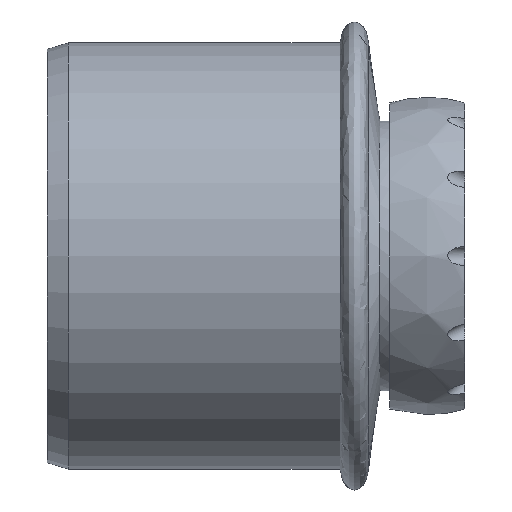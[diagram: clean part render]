
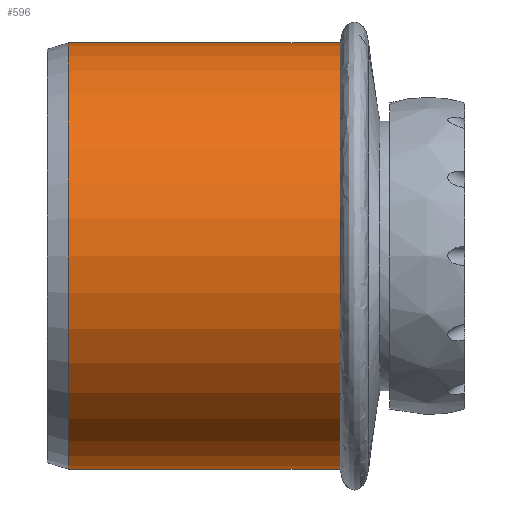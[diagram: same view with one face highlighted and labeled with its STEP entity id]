
A CAD part, front view. The second image highlights one B-rep face of the part: STEP entity #596.
In plain terms, the highlighted cylindrical face has radius 45.1 mm (diameter 90.2 mm), a full revolution.
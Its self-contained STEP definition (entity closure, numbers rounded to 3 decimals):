
#17=FACE_BOUND('',#145,.T.);
#75=CYLINDRICAL_SURFACE('',#677,45.1);
#107=FACE_OUTER_BOUND('',#144,.T.);
#144=EDGE_LOOP('',(#501));
#145=EDGE_LOOP('',(#502));
#189=CIRCLE('',#670,45.1);
#192=CIRCLE('',#676,45.1);
#274=VERTEX_POINT('',#1528);
#277=VERTEX_POINT('',#1538);
#354=EDGE_CURVE('',#274,#274,#189,.T.);
#357=EDGE_CURVE('',#277,#277,#192,.T.);
#501=ORIENTED_EDGE('',*,*,#354,.F.);
#502=ORIENTED_EDGE('',*,*,#357,.T.);
#596=ADVANCED_FACE('',(#107,#17),#75,.T.);
#670=AXIS2_PLACEMENT_3D('',#1530,#832,#833);
#676=AXIS2_PLACEMENT_3D('',#1539,#844,#845);
#677=AXIS2_PLACEMENT_3D('',#1540,#846,#847);
#832=DIRECTION('center_axis',(1.,0.,0.));
#833=DIRECTION('ref_axis',(0.,0.,-1.));
#844=DIRECTION('center_axis',(1.,0.,0.));
#845=DIRECTION('ref_axis',(0.,0.,-1.));
#846=DIRECTION('center_axis',(1.,0.,0.));
#847=DIRECTION('ref_axis',(0.,1.,0.));
#1528=CARTESIAN_POINT('',(62.,60.55,0.));
#1530=CARTESIAN_POINT('Origin',(62.,15.45,0.));
#1538=CARTESIAN_POINT('',(4.5,60.55,0.));
#1539=CARTESIAN_POINT('Origin',(4.5,15.45,0.));
#1540=CARTESIAN_POINT('Origin',(33.25,15.45,0.));
